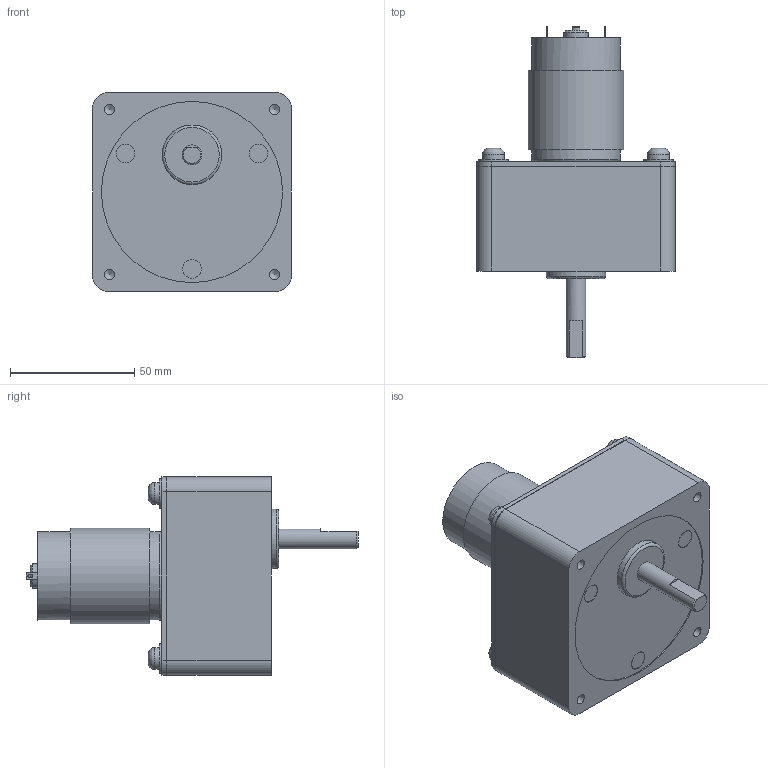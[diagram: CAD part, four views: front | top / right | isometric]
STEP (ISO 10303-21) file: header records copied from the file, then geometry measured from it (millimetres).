
FILE_DESCRIPTION(/* description */ (''),/* implementation_level */ '2;1');
FILE_NAME(/* name */ 'TP-3850#-DE-4~5.stp',/* time_stamp */ '2024-02-23T10:45:51+09:00',/* author */ ('user'),/* organization */ (''),/* preprocessor_version */ 'ST-DEVELOPER v20',/* originating_system */ 'Autodesk Inventor 2024',/* authorisation */ '');
FILE_SCHEMA (('AUTOMOTIVE_DESIGN { 1 0 10303 214 3 1 1 }'));
Length unit declared in the file: millimetre
Products named in the file (3): TP-3850#-DE-200~1800-J00-24; DE-4; TP-3850K(RS-645)
Assembly tree (2 placements, depth 2):
  TP-3850#-DE-200~1800-J00-24
    DE-4
    TP-3850K(RS-645)
Bounding box: 80 x 133.8 x 80 mm (x, y, z)
Volume: 337329 mm3; surface area: 37579.5 mm2
Topology: 2 solids, 2 shells, 158 faces, 349 edges, 230 vertices
Faces by surface type: plane 79, cylinder 56, torus 10, cone 9, bspline 4
Full cylindrical faces by diameter (mm): 1.5 x1, 2.459 x2, 2.5 x5, 3.17 x2, 4.134 x4, 7.4 x1, 7.5 x3, 8 x1, 8.8 x4, 9.8 x1, 11 x1, 12 x4, 13 x1, 15 x1, 24 x1, 34.8 x1, 35.8 x1, 73 x1
Entity records: 4661 total; most frequent: CARTESIAN_POINT 844, DIRECTION 820, ORIENTED_EDGE 686, EDGE_CURVE 343, AXIS2_PLACEMENT_3D 320, VERTEX_POINT 230, EDGE_LOOP 203, LINE 180
